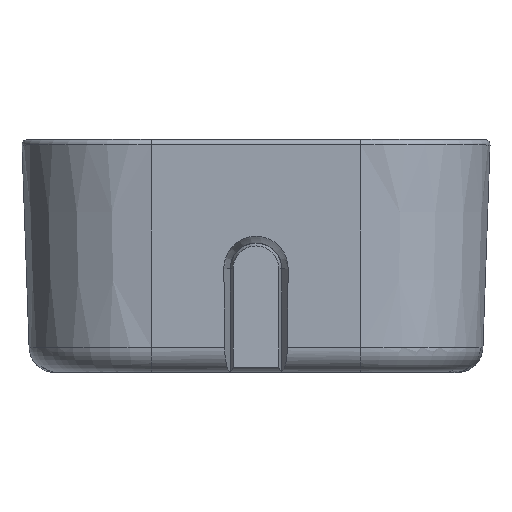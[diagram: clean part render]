
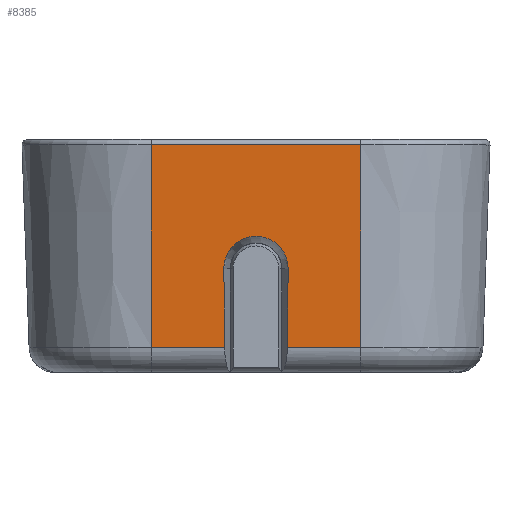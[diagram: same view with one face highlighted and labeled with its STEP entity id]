
A CAD part, top view. The second image highlights one B-rep face of the part: STEP entity #8385.
In plain terms, the highlighted planar face has unit normal (0, -0.035, 0.999).
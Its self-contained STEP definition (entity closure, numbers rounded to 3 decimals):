
#152 = ORIENTED_EDGE ( 'NONE', *, *, #10159, .T. ) ;
#594 = VERTEX_POINT ( 'NONE', #6133 ) ;
#665 = EDGE_LOOP ( 'NONE', ( #7567, #5301, #5914, #5210, #152, #6031, #2031, #3567 ) ) ;
#825 = LINE ( 'NONE', #10740, #8313 ) ;
#841 = DIRECTION ( 'NONE',  ( 0., -0.999, -0.035 ) ) ;
#847 = EDGE_CURVE ( 'NONE', #594, #4492, #12232, .T. ) ;
#886 = VECTOR ( 'NONE', #12209, 1000. ) ;
#1071 = CARTESIAN_POINT ( 'NONE',  ( -4.05, 0.965, 7.227 ) ) ;
#1609 = EDGE_CURVE ( 'NONE', #3017, #6696, #1862, .T. ) ;
#1795 = CARTESIAN_POINT ( 'NONE',  ( -1.214, 0.965, 7.227 ) ) ;
#1862 = LINE ( 'NONE', #6056, #4177 ) ;
#1974 = VECTOR ( 'NONE', #7428, 1000. ) ;
#2031 = ORIENTED_EDGE ( 'NONE', *, *, #11045, .F. ) ;
#2193 = EDGE_CURVE ( 'NONE', #8206, #4307, #10253, .T. ) ;
#2247 = CARTESIAN_POINT ( 'NONE',  ( 0.733, 5.254, 7.376 ) ) ;
#2838 = LINE ( 'NONE', #12934, #3476 ) ;
#3017 = VERTEX_POINT ( 'NONE', #4685 ) ;
#3037 = CARTESIAN_POINT ( 'NONE',  ( -1.288, 8.819, 7.501 ) ) ;
#3111 = CARTESIAN_POINT ( 'NONE',  ( 1.243, 4., 7.333 ) ) ;
#3315 = CARTESIAN_POINT ( 'NONE',  ( -0.733, 5.254, 7.376 ) ) ;
#3476 = VECTOR ( 'NONE', #841, 1000. ) ;
#3567 = ORIENTED_EDGE ( 'NONE', *, *, #2193, .F. ) ;
#3724 = EDGE_CURVE ( 'NONE', #594, #8206, #12010, .T. ) ;
#4144 = CARTESIAN_POINT ( 'NONE',  ( -1.243, 4., 7.333 ) ) ;
#4177 = VECTOR ( 'NONE', #5991, 1000. ) ;
#4181 = CARTESIAN_POINT ( 'NONE',  ( -4.05, 8.793, 7.5 ) ) ;
#4253 = CARTESIAN_POINT ( 'NONE',  ( -1.243, 4., 7.333 ) ) ;
#4307 = VERTEX_POINT ( 'NONE', #4144 ) ;
#4492 = VERTEX_POINT ( 'NONE', #8395 ) ;
#4685 = CARTESIAN_POINT ( 'NONE',  ( -4.05, 8.793, 7.5 ) ) ;
#4845 = CARTESIAN_POINT ( 'NONE',  ( 1.243, 4., 7.333 ) ) ;
#5210 = ORIENTED_EDGE ( 'NONE', *, *, #1609, .F. ) ;
#5301 = ORIENTED_EDGE ( 'NONE', *, *, #847, .T. ) ;
#5385 = CARTESIAN_POINT ( 'NONE',  ( -1.25, 4.733, 7.358 ) ) ;
#5914 = ORIENTED_EDGE ( 'NONE', *, *, #10996, .F. ) ;
#5971 = EDGE_CURVE ( 'NONE', #6764, #8693, #825, .T. ) ;
#5991 = DIRECTION ( 'NONE',  ( 1., 0., 0. ) ) ;
#6031 = ORIENTED_EDGE ( 'NONE', *, *, #5971, .T. ) ;
#6056 = CARTESIAN_POINT ( 'NONE',  ( -4.05, 8.793, 7.5 ) ) ;
#6133 = CARTESIAN_POINT ( 'NONE',  ( 1.214, 0.965, 7.227 ) ) ;
#6316 = CARTESIAN_POINT ( 'NONE',  ( 0., 5.254, 7.376 ) ) ;
#6696 = VERTEX_POINT ( 'NONE', #7103 ) ;
#6764 = VERTEX_POINT ( 'NONE', #9553 ) ;
#7103 = CARTESIAN_POINT ( 'NONE',  ( 4.05, 8.793, 7.5 ) ) ;
#7428 = DIRECTION ( 'NONE',  ( 0., -0.999, -0.035 ) ) ;
#7567 = ORIENTED_EDGE ( 'NONE', *, *, #3724, .F. ) ;
#8206 = VERTEX_POINT ( 'NONE', #4845 ) ;
#8294 = LINE ( 'NONE', #3037, #886 ) ;
#8313 = VECTOR ( 'NONE', #8873, 1000. ) ;
#8385 = ADVANCED_FACE ( 'NONE', ( #8960 ), #13142, .T. ) ;
#8395 = CARTESIAN_POINT ( 'NONE',  ( 4.05, 0.965, 7.227 ) ) ;
#8693 = VERTEX_POINT ( 'NONE', #1795 ) ;
#8843 = VECTOR ( 'NONE', #9176, 1000. ) ;
#8873 = DIRECTION ( 'NONE',  ( 1., 0., 0. ) ) ;
#8892 = CARTESIAN_POINT ( 'NONE',  ( 1.287, 8.743, 7.498 ) ) ;
#8960 = FACE_OUTER_BOUND ( 'NONE', #665, .T. ) ;
#9176 = DIRECTION ( 'NONE',  ( 1., 0., 0. ) ) ;
#9553 = CARTESIAN_POINT ( 'NONE',  ( -4.05, 0.965, 7.227 ) ) ;
#9620 = LINE ( 'NONE', #12488, #1974 ) ;
#10020 = DIRECTION ( 'NONE',  ( 0.009, 0.999, 0.035 ) ) ;
#10159 = EDGE_CURVE ( 'NONE', #3017, #6764, #9620, .T. ) ;
#10253 =( BOUNDED_CURVE ( )  B_SPLINE_CURVE ( 3, ( #3111, #11162, #2247, #6316, #3315, #5385, #4253 ),
 .UNSPECIFIED., .F., .F. ) 
 B_SPLINE_CURVE_WITH_KNOTS ( ( 4, 3, 4 ),
 ( 4.703, 6.283, 7.863 ),
 .UNSPECIFIED. ) 
 CURVE ( )  GEOMETRIC_REPRESENTATION_ITEM ( )  RATIONAL_B_SPLINE_CURVE ( ( 1., 0.803, 0.803, 1., 0.803, 0.803, 1. ) ) 
 REPRESENTATION_ITEM ( '' )  );
#10740 = CARTESIAN_POINT ( 'NONE',  ( -4.05, 0.965, 7.227 ) ) ;
#10772 = VECTOR ( 'NONE', #10020, 1000. ) ;
#10996 = EDGE_CURVE ( 'NONE', #6696, #4492, #2838, .T. ) ;
#11045 = EDGE_CURVE ( 'NONE', #4307, #8693, #8294, .T. ) ;
#11162 = CARTESIAN_POINT ( 'NONE',  ( 1.25, 4.733, 7.358 ) ) ;
#11950 = DIRECTION ( 'NONE',  ( 0., -0.035, 0.999 ) ) ;
#12010 = LINE ( 'NONE', #8892, #10772 ) ;
#12209 = DIRECTION ( 'NONE',  ( 0.009, -0.999, -0.035 ) ) ;
#12232 = LINE ( 'NONE', #1071, #8843 ) ;
#12488 = CARTESIAN_POINT ( 'NONE',  ( -4.05, 8.793, 7.5 ) ) ;
#12777 = AXIS2_PLACEMENT_3D ( 'NONE', #4181, #11950, #13006 ) ;
#12934 = CARTESIAN_POINT ( 'NONE',  ( 4.05, 8.793, 7.5 ) ) ;
#13006 = DIRECTION ( 'NONE',  ( 0., -0.999, -0.035 ) ) ;
#13142 = PLANE ( 'NONE',  #12777 ) ;
